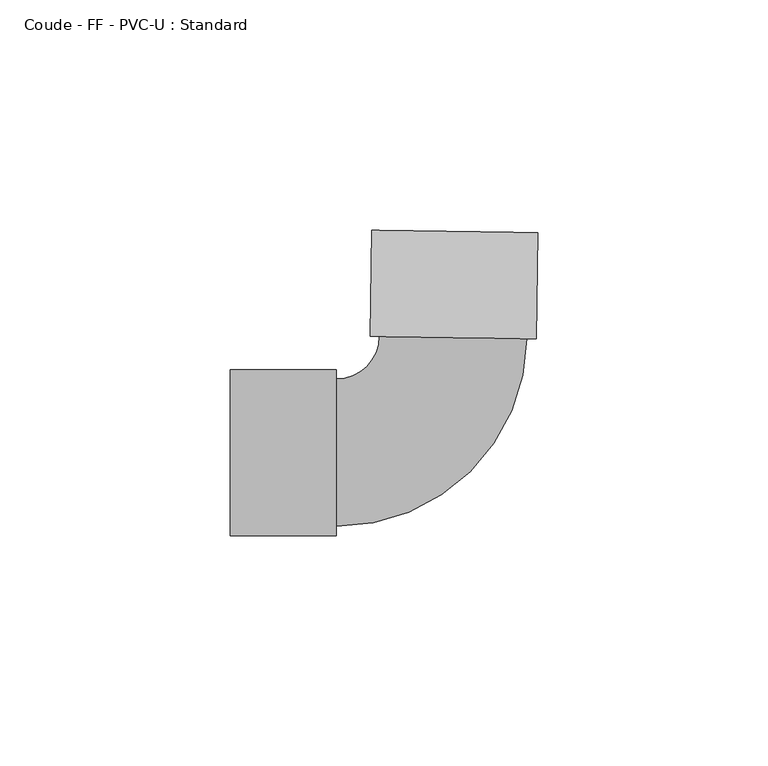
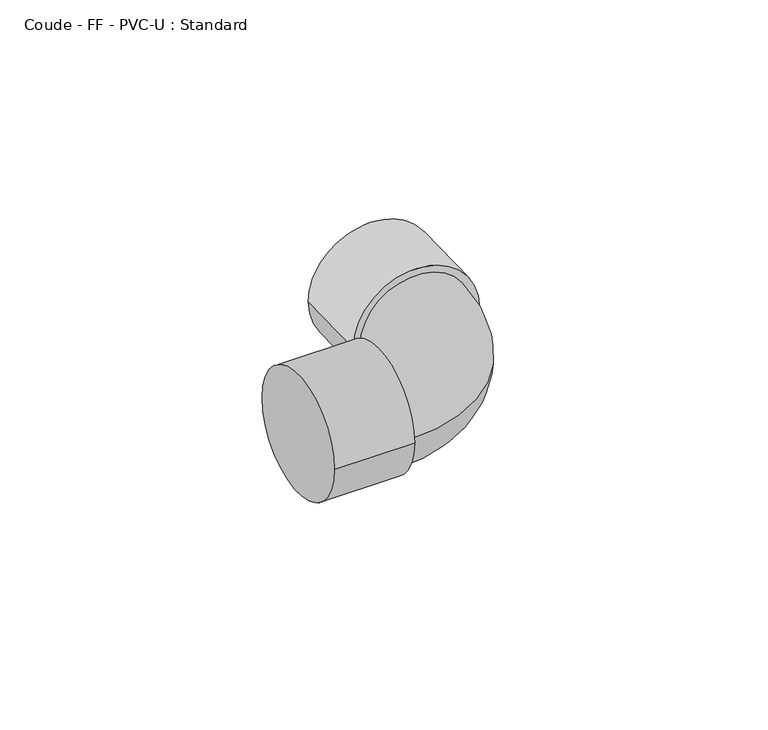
"""IFC4 building model written with IfcOpenShell, lengths in millimetres: pipe fitting geometry, Coude - FF - PVC-U : Standard."""

from ifc_helpers import new_model, si_unit, point, frame, origin, place, context, project, spatial, circle_curve, ellipse_curve, trimmed, source, transform, mapped, element, save
from ifc_brep_helpers import plane_surface, cylinder_surface, revolved_surface, advanced_brep


def coude_ff_pvc_u_standard_63e43834(model_context):
    return source(origin(), model_context, "Body", "AdvancedBrep", [
        advanced_brep(
        [(-48.0, -18.0, 0.0), (-48.0, 18.0, 0.0), (-25.0, -18.0, 0.0), (-25.0, 18.0, 0.0), (-25.0, -16.0, 0.0), (-25.0, 16.0, 0.0), (-15.6232412, 25.2371618, 0.0), (16.3731594, 24.7572142, 0.0), (18.3729344, 24.7272174, 0.0), (-17.6230163, 25.2671585, 0.0), (18.7178967, 47.7246304, 0.0), (-17.2780539, 48.2645714, 0.0)],
        [
            (0, 1, circle_curve(frame((-48.0, 0.0, 0.0), z_axis=(-1.0, 0.0, 0.0), x_axis=(0.0, 1.0, 0.0)), 18.0)),
            (1, 0, circle_curve(frame((-48.0, 0.0, 0.0), z_axis=(-1.0, 0.0, 0.0), x_axis=(0.0, 1.0, 0.0)), 18.0)),
            (2, 3, circle_curve(frame((-25.0, 0.0, 0.0), z_axis=(1.0, 0.0, 0.0), x_axis=(0.0, 1.0, 0.0)), 18.0)),
            (3, 2, circle_curve(frame((-25.0, 0.0, 0.0), z_axis=(1.0, 0.0, 0.0), x_axis=(0.0, 1.0, 0.0)), 18.0)),
            (4, 5, circle_curve(frame((-25.0, 0.0, 0.0), z_axis=(-1.0, 0.0, 0.0), x_axis=(0.0, 1.0, 0.0)), 16.0)),
            (5, 4, circle_curve(frame((-25.0, 0.0, 0.0), z_axis=(-1.0, 0.0, 0.0), x_axis=(0.0, 1.0, 0.0)), 16.0)),
            (0, 2),
            (3, 1),
            (6, 5, circle_curve(frame((-25.0, 25.3778136, 0.0), z_axis=(0.0, 0.0, -1.0), x_axis=(0.0, -1.0, 0.0)), 9.3778136)),
            (4, 7, circle_curve(frame((-25.0, 25.3778136, 0.0), z_axis=(0.0, 0.0, 1.0), x_axis=(0.0, -1.0, 0.0)), 41.3778136)),
            (7, 6, circle_curve(frame((0.3749591, 24.997188, 0.0), z_axis=(-0.014998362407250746, -0.9998875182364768, 0.0), x_axis=(-0.9998875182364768, 0.014998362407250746, 0.0)), 16.0)),
            (6, 7, circle_curve(frame((0.3749591, 24.997188, 0.0), z_axis=(-0.014998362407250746, -0.9998875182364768, 0.0), x_axis=(-0.9998875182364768, 0.014998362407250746, 0.0)), 16.0)),
            (8, 9, circle_curve(frame((0.3749591, 24.997188, 0.0), z_axis=(-0.014998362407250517, -0.9998875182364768, 0.0), x_axis=(-0.9998875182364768, 0.014998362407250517, 0.0)), 18.0)),
            (9, 8, circle_curve(frame((0.3749591, 24.997188, 0.0), z_axis=(-0.014998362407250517, -0.9998875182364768, 0.0), x_axis=(-0.9998875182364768, 0.014998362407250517, 0.0)), 18.0)),
            (10, 11, circle_curve(frame((0.7199214, 47.9946009, 0.0), z_axis=(0.014998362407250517, 0.9998875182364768, 0.0), x_axis=(-0.9998875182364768, 0.014998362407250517, 0.0)), 18.0)),
            (11, 10, circle_curve(frame((0.7199214, 47.9946009, 0.0), z_axis=(0.014998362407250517, 0.9998875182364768, 0.0), x_axis=(-0.9998875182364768, 0.014998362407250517, 0.0)), 18.0)),
            (8, 10),
            (11, 9),
        ],
        [
            plane_surface(frame((-48.0, 0.0, 0.0), z_axis=(-1.0, 0.0, 0.0), x_axis=(0.0, 0.0, 1.0))),
            plane_surface(frame((-25.0, 0.0, 0.0), z_axis=(1.0, 0.0, 0.0), x_axis=(0.0, 0.0, 1.0))),
            cylinder_surface(frame((-48.0, 0.0, 0.0), z_axis=(-1.0, 0.0, 0.0), x_axis=(0.0, 1.0, 0.0)), 18.0),
            revolved_surface(trimmed(ellipse_curve(frame((-25.0, 0.0, 0.0), z_axis=(-1.0, 0.0, 0.0), x_axis=(0.0, 1.0, 0.0)), 16.0, 16.0), [point((-25.0, -16.0, 0.0))], [point((-25.0, 16.0, 0.0))], True, "CARTESIAN"), (-25.0, 25.3778136, 0.0), (0.0, 0.0, 1.0)),
            revolved_surface(trimmed(ellipse_curve(frame((-25.0, 0.0, 0.0), z_axis=(-1.0, 0.0, 0.0), x_axis=(0.0, 1.0, 0.0)), 16.0, 16.0), [point((-25.0, 16.0, 0.0))], [point((-25.0, -16.0, 0.0))], True, "CARTESIAN"), (-25.0, 25.3778136, 0.0), (0.0, 0.0, 1.0)),
            plane_surface(frame((0.3749591, 24.997188, 0.0), z_axis=(-0.014998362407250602, -0.9998875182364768, 0.0), x_axis=(0.0, 0.0, 1.0))),
            plane_surface(frame((0.7199214, 47.9946009, 0.0), z_axis=(0.014998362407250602, 0.9998875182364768, 0.0), x_axis=(0.0, 0.0, 1.0))),
            cylinder_surface(frame((0.3749591, 24.997188, 0.0), z_axis=(-0.014998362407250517, -0.9998875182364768, 0.0), x_axis=(-0.9998875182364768, 0.014998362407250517, 0.0)), 18.0),
        ],
        [
            (0, [[1, 2]]),
            (1, [[3, 4], [5, 6]]),
            (2, [[-1, 7, -4, 8]]),
            (2, [[-2, -8, -3, -7]]),
            (3, [[9, -5, 10, 11]]),
            (4, [[-9, 12, -10, -6]]),
            (5, [[13, 14], [-11, -12]]),
            (6, [[15, 16]]),
            (7, [[-13, 17, -16, 18]]),
            (7, [[-14, -18, -15, -17]]),
        ],
    ),
    ])


if __name__ == "__main__":
    model = new_model("IFC4")
    model_context = context("Model", 3, world=origin())
    ifc_project = project(units=[si_unit("LENGTHUNIT", "METRE", prefix="MILLI")], contexts=[model_context])
    site = spatial("IfcSite", under=ifc_project)
    building = spatial("IfcBuilding", under=site)
    placement = place(None, origin())
    coude_ff_pvc_u_standard_shape = coude_ff_pvc_u_standard_63e43834(model_context)
    element("IfcPipeFitting", 1, ObjectType="Coude - FF - PVC-U : Standard", at=placement, inside=building, context=model_context, shape_type="MappedRepresentation", body=[
        mapped(coude_ff_pvc_u_standard_shape, transform((0.0, 0.0, 0.0), x_axis=(1.0, 0.0, 0.0), y_axis=(0.0, 1.0, 0.0), z_axis=(0.0, 0.0, 1.0))),
    ])
    save(model, "model.ifc")
